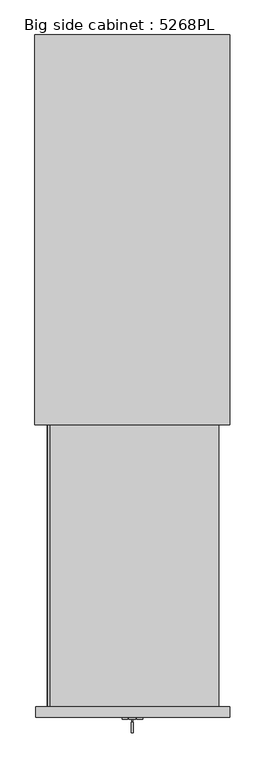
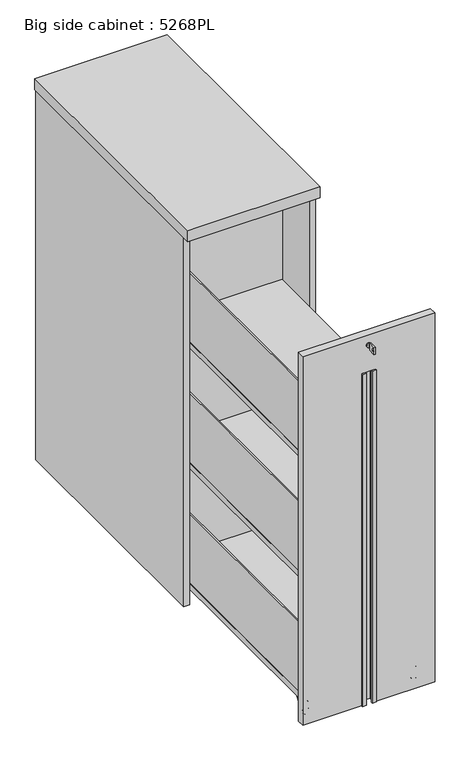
"""IFC4 building model written with IfcOpenShell, lengths in millimetres: furniture geometry, Big side cabinet : 5268PL."""

from ifc_helpers import new_model, si_unit, point, frame, frame_2d, origin, origin_with_axes, place, context, project, spatial, polyline, circle_curve, ellipse_curve, trimmed, segment, composite_curve, outline, extrude, source, transform, mapped, element, save
from ifc_brep_helpers import plane_surface, cylinder_surface, revolved_surface, advanced_brep


def big_side_cabinet_5268pl_2fee174d(model_context):
    return source(origin(), model_context, "Body", "SolidModel", [
        extrude(outline(polyline([(1.5783188, 20.1617145), (1.5783188, 10.1617145), (-8.4216812, 10.1617145), (-8.4216812, 20.1617145), (1.5783188, 20.1617145)])), origin_with_axes(), (0.0, 0.0, 1.0), 10.0),
        extrude(outline(polyline([(180.5000002, 798.0), (198.5, 798.0), (198.5, 22.9999769), (180.5000002, 22.9999769), (180.5000002, 798.0)])), frame((0.0, 0.0, 5.0), z_axis=(0.0, 0.0, 1.0), x_axis=(1.0, 0.0, 0.0)), (0.0, 0.0, 1.0), 1180.0),
        extrude(outline(polyline([(-180.5000002, 778.4999997), (-180.5000002, 790.9999997), (180.5000002, 790.9999997), (180.5000002, 778.4999997), (-180.5000002, 778.4999997)])), frame((0.0, 0.0, 5.0), z_axis=(0.0, 0.0, 1.0), x_axis=(1.0, 0.0, 0.0)), (0.0, 0.0, 1.0), 1180.0),
        extrude(outline(polyline([(-180.5000002, 798.0), (-180.5000002, 22.9999769), (-198.5, 22.9999769), (-198.5, 798.0), (-180.5000002, 798.0)])), frame((0.0, 0.0, 5.0), z_axis=(0.0, 0.0, 1.0), x_axis=(1.0, 0.0, 0.0)), (0.0, 0.0, 1.0), 1180.0),
        extrude(outline(polyline([(180.5000002, 70.0000151), (-180.5000002, 70.0000151), (-180.5000002, 738.5000021), (180.5000002, 738.5000021), (180.5000002, 70.0000151)])), frame((0.0, 0.0, 20.0583505), z_axis=(0.0, 0.0, 1.0), x_axis=(1.0, 0.0, 0.0)), (0.0, 0.0, 1.0), 17.9999982),
        extrude(outline(polyline([(200.0, 0.0), (-200.0, 0.0), (-200.0, 800.0), (200.0, 800.0), (200.0, 0.0)])), frame((0.0, 0.0, 1185.0), z_axis=(0.0, 0.0, 1.0), x_axis=(1.0, 0.0, 0.0)), (0.0, 0.0, 1.0), 35.0),
        extrude(outline(composite_curve([segment(trimmed(circle_curve(frame_2d((-160.5000002, 706.0000021)), 20.0), [point((-180.5000002, 706.0000021))], [point((-140.5000002, 706.0000021))], False, "CARTESIAN"), True, "CONTINUOUS"), segment(trimmed(circle_curve(frame_2d((-160.5000002, 706.0000021)), 20.0), [point((-140.5000002, 706.0000021))], [point((-180.5000002, 706.0000021))], False, "CARTESIAN"), True, "CONTINUOUS")], self_intersect=False)), origin_with_axes(), (0.0, 0.0, 1.0), 19.0539492),
        extrude(outline(composite_curve([segment(trimmed(circle_curve(frame_2d((-160.5000002, 98.9999918)), 20.0), [point((-180.5000002, 98.9999918))], [point((-140.5000002, 98.9999918))], False, "CARTESIAN"), True, "CONTINUOUS"), segment(trimmed(circle_curve(frame_2d((-160.5000002, 98.9999918)), 20.0), [point((-140.5000002, 98.9999918))], [point((-180.5000002, 98.9999918))], False, "CARTESIAN"), True, "CONTINUOUS")], self_intersect=False)), origin_with_axes(), (0.0, 0.0, 1.0), 19.0539492),
        extrude(outline(composite_curve([segment(trimmed(circle_curve(frame_2d((160.5000002, 706.0000021)), 20.0), [point((140.5000002, 706.0000021))], [point((180.5000002, 706.0000021))], False, "CARTESIAN"), True, "CONTINUOUS"), segment(trimmed(circle_curve(frame_2d((160.5000002, 706.0000021)), 20.0), [point((180.5000002, 706.0000021))], [point((140.5000002, 706.0000021))], False, "CARTESIAN"), True, "CONTINUOUS")], self_intersect=False)), origin_with_axes(), (0.0, 0.0, 1.0), 19.0539492),
        extrude(outline(composite_curve([segment(trimmed(circle_curve(frame_2d((160.5000002, 98.9999918)), 20.0), [point((140.5000002, 98.9999918))], [point((180.5000002, 98.9999918))], False, "CARTESIAN"), True, "CONTINUOUS"), segment(trimmed(circle_curve(frame_2d((160.5000002, 98.9999918)), 20.0), [point((180.5000002, 98.9999918))], [point((140.5000002, 98.9999918))], False, "CARTESIAN"), True, "CONTINUOUS")], self_intersect=False)), origin_with_axes(), (0.0, 0.0, 1.0), 19.0539492),
        advanced_brep(
        [(155.997354, -548.0000393, 10.5), (158.25, -548.0000393, 12.752646), (158.25, -548.0000393, 29.247354), (155.997354, -548.0000393, 31.5), (155.997354, -548.0000393, 3.0456405), (155.997354, -548.0000393, 38.9543595), (159.0429945, -548.0000393, 0.0), (159.0429945, -548.0000393, 42.0), (162.5, -548.0000393, 0.0), (162.5, -548.0000393, 42.0), (162.5, -548.0000393, 16.75), (162.5, -548.0000393, 25.25), (158.25, -548.0000393, 16.75), (158.25, -548.0000393, 25.25)],
        [
            (0, 1),
            (1, 2, circle_curve(frame((158.25, -548.0000393, 21.0), z_axis=(1.0, 0.0, 0.0), x_axis=(0.0, 0.0, 1.0)), 8.247354)),
            (2, 3),
            (3, 0, circle_curve(frame((155.997354, -548.0000393, 21.0), z_axis=(-1.0, 0.0, 0.0), x_axis=(0.0, 0.0, 1.0)), 10.5)),
            (2, 1, circle_curve(frame((158.25, -548.0000393, 21.0), z_axis=(1.0, 0.0, 0.0), x_axis=(0.0, 0.0, 1.0)), 8.247354)),
            (0, 3, circle_curve(frame((155.997354, -548.0000393, 21.0), z_axis=(-1.0, 0.0, 0.0), x_axis=(0.0, 0.0, 1.0)), 10.5)),
            (4, 0),
            (3, 5),
            (5, 4, circle_curve(frame((155.997354, -548.0000393, 21.0), z_axis=(-1.0, 0.0, 0.0), x_axis=(0.0, 0.0, 1.0)), 17.9543595)),
            (4, 5, circle_curve(frame((155.997354, -548.0000393, 21.0), z_axis=(-1.0, 0.0, 0.0), x_axis=(0.0, 0.0, 1.0)), 17.9543595)),
            (6, 4, circle_curve(frame((159.0429945, -548.0000393, 3.0456405), z_axis=(0.0, 1.0, 0.0), x_axis=(-1.0, 0.0, 0.0)), 3.0456405)),
            (5, 7, circle_curve(frame((159.0429945, -548.0000393, 38.9543595), z_axis=(0.0, 1.0, 0.0), x_axis=(-1.0, 0.0, 0.0)), 3.0456405)),
            (7, 6, circle_curve(frame((159.0429945, -548.0000393, 21.0), z_axis=(-1.0, 0.0, 0.0), x_axis=(0.0, 0.0, 1.0)), 21.0)),
            (6, 7, circle_curve(frame((159.0429945, -548.0000393, 21.0), z_axis=(-1.0, 0.0, 0.0), x_axis=(0.0, 0.0, 1.0)), 21.0)),
            (8, 6),
            (7, 9),
            (9, 8, circle_curve(frame((162.5, -548.0000393, 21.0), z_axis=(-1.0, 0.0, 0.0), x_axis=(0.0, 0.0, 1.0)), 21.0)),
            (8, 9, circle_curve(frame((162.5, -548.0000393, 21.0), z_axis=(-1.0, 0.0, 0.0), x_axis=(0.0, 0.0, 1.0)), 21.0)),
            (10, 8),
            (9, 11),
            (11, 10, circle_curve(frame((162.5, -548.0000393, 21.0), z_axis=(-1.0, 0.0, 0.0), x_axis=(0.0, 0.0, 1.0)), 4.25)),
            (10, 11, circle_curve(frame((162.5, -548.0000393, 21.0), z_axis=(-1.0, 0.0, 0.0), x_axis=(0.0, 0.0, 1.0)), 4.25)),
            (12, 10),
            (11, 13),
            (13, 12, circle_curve(frame((158.25, -548.0000393, 21.0), z_axis=(-1.0, 0.0, 0.0), x_axis=(0.0, 0.0, 1.0)), 4.25)),
            (12, 13, circle_curve(frame((158.25, -548.0000393, 21.0), z_axis=(-1.0, 0.0, 0.0), x_axis=(0.0, 0.0, 1.0)), 4.25)),
            (1, 12),
            (13, 2),
        ],
        [
            revolved_surface(polyline([(158.25, -548.0000393, 29.247354), (155.997354, -548.0000393, 31.5)]), (135.5019942, -548.0000393, 21.0), (1.0, 0.0, 0.0)),
            plane_surface(frame((155.997354, -548.0000393, 21.0), z_axis=(-1.0, 0.0, 0.0), x_axis=(0.0, 0.0, 1.0))),
            revolved_surface(trimmed(ellipse_curve(frame((159.0429945, -548.0000393, 38.9543595), z_axis=(0.0, 1.0, 0.0), x_axis=(-1.0, 0.0, 0.0)), 3.0456405, 3.0456405), [point((155.997354, -548.0000393, 38.9543595))], [point((159.0429945, -548.0000393, 42.0))], True, "CARTESIAN"), (135.5019942, -548.0000393, 21.0), (1.0, 0.0, 0.0)),
            cylinder_surface(frame((135.5019942, -548.0000393, 21.0), z_axis=(1.0, 0.0, 0.0), x_axis=(0.0, 0.0, 1.0)), 21.0),
            plane_surface(frame((162.5, -548.0000393, 21.0), z_axis=(1.0, 0.0, 0.0), x_axis=(0.0, 0.0, 1.0))),
            revolved_surface(polyline([(162.5, -548.0000393, 25.25), (158.25, -548.0000393, 25.25)]), (135.5019942, -548.0000393, 21.0), (1.0, 0.0, 0.0)),
            plane_surface(frame((158.25, -548.0000393, 21.0), z_axis=(-1.0, 0.0, 0.0), x_axis=(0.0, 0.0, 1.0))),
        ],
        [
            (0, [[1, 2, 3, 4]]),
            (0, [[-3, 5, -1, 6]]),
            (1, [[7, -4, 8, 9]]),
            (1, [[-8, -6, -7, 10]]),
            (2, [[11, -9, 12, 13]]),
            (2, [[-12, -10, -11, 14]]),
            (3, [[15, -13, 16, 17]]),
            (3, [[-16, -14, -15, 18]]),
            (4, [[19, -17, 20, 21]]),
            (4, [[-20, -18, -19, 22]]),
            (5, [[23, -21, 24, 25]]),
            (5, [[-24, -22, -23, 26]]),
            (6, [[27, -25, 28, -2]]),
            (6, [[-28, -26, -27, -5]]),
        ],
    ),
        advanced_brep(
        [(174.351441, -548.0000393, 25.0), (174.351441, -548.0000393, 21.0), (174.351441, -548.0000393, 17.0), (169.8769483, -548.0000393, 17.0), (169.8769483, -548.0000393, 25.0)],
        [
            (0, 1),
            (1, 2),
            (2, 0, circle_curve(frame((174.351441, -548.0000393, 21.0), z_axis=(1.0, 0.0, 0.0), x_axis=(0.0, 0.0, -1.0)), 4.0)),
            (0, 2, circle_curve(frame((174.351441, -548.0000393, 21.0), z_axis=(1.0, 0.0, 0.0), x_axis=(0.0, 0.0, -1.0)), 4.0)),
            (2, 3),
            (3, 4, circle_curve(frame((169.8769483, -548.0000393, 21.0), z_axis=(1.0, 0.0, 0.0), x_axis=(0.0, 0.0, -1.0)), 4.0)),
            (4, 0),
            (4, 3, circle_curve(frame((169.8769483, -548.0000393, 21.0), z_axis=(1.0, 0.0, 0.0), x_axis=(0.0, 0.0, -1.0)), 4.0)),
        ],
        [
            plane_surface(frame((174.351441, -548.0000393, 21.0), z_axis=(1.0, 0.0, 0.0), x_axis=(0.0, 0.0, -1.0))),
            cylinder_surface(frame((142.5, -548.0000393, 21.0), z_axis=(-1.0, 0.0, 0.0), x_axis=(0.0, 0.0, -1.0)), 4.0),
            plane_surface(frame((169.8769483, -572.0000393, 46.0), z_axis=(-1.0, 0.0, 0.0), x_axis=(0.0, 1.0, 0.0))),
        ],
        [
            (0, [[1, 2, 3]]),
            (0, [[-1, 4, -2]]),
            (1, [[5, 6, 7, -3]]),
            (1, [[-7, 8, -5, -4]]),
            (2, [[-8, -6]]),
        ],
    ),
        advanced_brep(
        [(150.5708052, -548.0000393, 25.0), (155.0, -548.0000393, 25.0), (155.0, -548.0000393, 17.0), (150.5708052, -548.0000393, 17.0), (150.5708052, -548.0000393, 21.0)],
        [
            (0, 1),
            (1, 2, circle_curve(frame((155.0, -548.0000393, 21.0), z_axis=(-1.0, 0.0, 0.0), x_axis=(0.0, 0.0, -1.0)), 4.0)),
            (2, 3),
            (3, 0, circle_curve(frame((150.5708052, -548.0000393, 21.0), z_axis=(1.0, 0.0, 0.0), x_axis=(0.0, 0.0, -1.0)), 4.0)),
            (2, 1, circle_curve(frame((155.0, -548.0000393, 21.0), z_axis=(-1.0, 0.0, 0.0), x_axis=(0.0, 0.0, -1.0)), 4.0)),
            (0, 3, circle_curve(frame((150.5708052, -548.0000393, 21.0), z_axis=(1.0, 0.0, 0.0), x_axis=(0.0, 0.0, -1.0)), 4.0)),
            (3, 4),
            (4, 0),
        ],
        [
            cylinder_surface(frame((142.5, -548.0000393, 21.0), z_axis=(-1.0, 0.0, 0.0), x_axis=(0.0, 0.0, -1.0)), 4.0),
            plane_surface(frame((150.5708052, -548.0000393, 21.0), z_axis=(-1.0, 0.0, 0.0), x_axis=(0.0, 0.0, -1.0))),
            plane_surface(frame((155.0, -572.0000393, 0.0), z_axis=(1.0, 0.0, 0.0), x_axis=(0.0, 1.0, 0.0))),
        ],
        [
            (0, [[1, 2, 3, 4]]),
            (0, [[-3, 5, -1, 6]]),
            (1, [[7, 8, -4]]),
            (1, [[-8, -7, -6]]),
            (2, [[-5, -2]]),
        ],
    ),
        advanced_brep(
        [(166.75, -548.0000393, 12.752646), (169.002646, -548.0000393, 10.5), (169.002646, -548.0000393, 31.5), (166.75, -548.0000393, 29.247354), (169.002646, -548.0000393, 3.0456405), (169.002646, -548.0000393, 38.9543595), (165.9570055, -548.0000393, 0.0), (165.9570055, -548.0000393, 42.0), (162.5, -548.0000393, 0.0), (162.5, -548.0000393, 42.0), (162.5, -548.0000393, 21.0), (166.75, -548.0000393, 21.0)],
        [
            (0, 1),
            (1, 2, circle_curve(frame((169.002646, -548.0000393, 21.0), z_axis=(1.0, 0.0, 0.0), x_axis=(0.0, 0.0, 1.0)), 10.5)),
            (2, 3),
            (3, 0, circle_curve(frame((166.75, -548.0000393, 21.0), z_axis=(-1.0, 0.0, 0.0), x_axis=(0.0, 0.0, 1.0)), 8.247354)),
            (2, 1, circle_curve(frame((169.002646, -548.0000393, 21.0), z_axis=(1.0, 0.0, 0.0), x_axis=(0.0, 0.0, 1.0)), 10.5)),
            (0, 3, circle_curve(frame((166.75, -548.0000393, 21.0), z_axis=(-1.0, 0.0, 0.0), x_axis=(0.0, 0.0, 1.0)), 8.247354)),
            (1, 4),
            (4, 5, circle_curve(frame((169.002646, -548.0000393, 21.0), z_axis=(1.0, 0.0, 0.0), x_axis=(0.0, 0.0, 1.0)), 17.9543595)),
            (5, 2),
            (5, 4, circle_curve(frame((169.002646, -548.0000393, 21.0), z_axis=(1.0, 0.0, 0.0), x_axis=(0.0, 0.0, 1.0)), 17.9543595)),
            (4, 6, circle_curve(frame((165.9570055, -548.0000393, 3.0456405), z_axis=(0.0, 1.0, 0.0), x_axis=(1.0, 0.0, 0.0)), 3.0456405)),
            (6, 7, circle_curve(frame((165.9570055, -548.0000393, 21.0), z_axis=(1.0, 0.0, 0.0), x_axis=(0.0, 0.0, 1.0)), 21.0)),
            (7, 5, circle_curve(frame((165.9570055, -548.0000393, 38.9543595), z_axis=(0.0, 1.0, 0.0), x_axis=(1.0, 0.0, 0.0)), 3.0456405)),
            (7, 6, circle_curve(frame((165.9570055, -548.0000393, 21.0), z_axis=(1.0, 0.0, 0.0), x_axis=(0.0, 0.0, 1.0)), 21.0)),
            (6, 8),
            (8, 9, circle_curve(frame((162.5, -548.0000393, 21.0), z_axis=(1.0, 0.0, 0.0), x_axis=(0.0, 0.0, 1.0)), 21.0)),
            (9, 7),
            (9, 8, circle_curve(frame((162.5, -548.0000393, 21.0), z_axis=(1.0, 0.0, 0.0), x_axis=(0.0, 0.0, 1.0)), 21.0)),
            (8, 10),
            (10, 9),
            (11, 0),
            (3, 11),
        ],
        [
            revolved_surface(polyline([(169.002646, -548.0000393, 31.5), (166.75, -548.0000393, 29.247354)]), (189.4980058, -548.0000393, 21.0), (1.0, 0.0, 0.0)),
            plane_surface(frame((169.002646, -548.0000393, 21.0), z_axis=(1.0, 0.0, 0.0), x_axis=(0.0, 0.0, 1.0))),
            revolved_surface(trimmed(ellipse_curve(frame((165.9570055, -548.0000393, 38.9543595), z_axis=(0.0, 1.0, 0.0), x_axis=(1.0, 0.0, 0.0)), 3.0456405, 3.0456405), [point((165.9570055, -548.0000393, 42.0))], [point((169.002646, -548.0000393, 38.9543595))], True, "CARTESIAN"), (189.4980058, -548.0000393, 21.0), (1.0, 0.0, 0.0)),
            cylinder_surface(frame((189.4980058, -548.0000393, 21.0), z_axis=(1.0, 0.0, 0.0), x_axis=(0.0, 0.0, 1.0)), 21.0),
            plane_surface(frame((162.5, -548.0000393, 21.0), z_axis=(-1.0, 0.0, 0.0), x_axis=(0.0, 0.0, 1.0))),
            plane_surface(frame((166.75, -548.0000393, 21.0), z_axis=(1.0, 0.0, 0.0), x_axis=(0.0, 0.0, 1.0))),
        ],
        [
            (0, [[1, 2, 3, 4]]),
            (0, [[-3, 5, -1, 6]]),
            (1, [[7, 8, 9, -2]]),
            (1, [[-9, 10, -7, -5]]),
            (2, [[11, 12, 13, -8]]),
            (2, [[-13, 14, -11, -10]]),
            (3, [[15, 16, 17, -12]]),
            (3, [[-17, 18, -15, -14]]),
            (4, [[19, 20, -16]]),
            (4, [[-20, -19, -18]]),
            (5, [[21, -4, 22]]),
            (5, [[-22, -6, -21]]),
        ],
    ),
        advanced_brep(
        [(152.5, -524.0000393, 48.0), (152.5, -524.0000393, 42.0), (152.5, -540.0000393, 21.0), (152.5, -556.0000393, 21.0), (152.5, -572.0000393, 42.0), (152.5, -572.0000393, 48.0), (172.5, -524.0000393, 48.0), (172.5, -572.0000393, 48.0), (172.5, -572.0000393, 42.0), (172.5, -556.0000393, 21.0), (172.5, -540.0000393, 21.0), (172.5, -524.0000393, 42.0), (169.8769483, -556.0000393, 21.0), (169.8769483, -540.0000393, 21.0), (155.0, -540.0000393, 21.0), (155.0, -556.0000393, 21.0), (155.0, -572.0000393, 42.0), (155.0, -572.0000393, 46.0), (169.8769483, -572.0000393, 46.0), (169.8769483, -572.0000393, 42.0), (169.8769483, -524.0000393, 42.0), (169.8769483, -524.0000393, 46.0), (155.0, -524.0000393, 46.0), (155.0, -524.0000393, 42.0)],
        [
            (0, 1),
            (1, 2),
            (2, 3, circle_curve(frame((152.5, -548.0000393, 21.0), z_axis=(-1.0, 0.0, 0.0), x_axis=(0.0, -1.0, 0.0)), 8.0)),
            (3, 4),
            (4, 5),
            (5, 0),
            (6, 7),
            (7, 8),
            (8, 9),
            (9, 10, circle_curve(frame((172.5, -548.0000393, 21.0), z_axis=(1.0, 0.0, 0.0), x_axis=(0.0, -1.0, 0.0)), 8.0)),
            (10, 11),
            (11, 6),
            (5, 7),
            (6, 0),
            (9, 12),
            (12, 13, circle_curve(frame((169.8769483, -548.0000393, 21.0), z_axis=(1.0, 0.0, 0.0), x_axis=(0.0, -1.0, 0.0)), 8.0)),
            (13, 10),
            (2, 14),
            (14, 15, circle_curve(frame((155.0, -548.0000393, 21.0), z_axis=(-1.0, 0.0, 0.0), x_axis=(0.0, -1.0, 0.0)), 8.0)),
            (15, 3),
            (4, 16),
            (16, 17),
            (17, 18),
            (18, 19),
            (19, 8),
            (11, 20),
            (20, 21),
            (21, 22),
            (22, 23),
            (23, 1),
            (17, 22),
            (21, 18),
            (16, 15),
            (14, 23),
            (20, 13),
            (12, 19),
        ],
        [
            plane_surface(frame((152.5, -572.0000393, 48.0), z_axis=(-1.0, 0.0, 0.0), x_axis=(0.0, -1.0, 0.0))),
            plane_surface(frame((172.5, -572.0000393, 48.0), z_axis=(1.0, 0.0, 0.0), x_axis=(0.0, 1.0, 0.0))),
            plane_surface(frame((152.5, -524.0000393, 48.0), z_axis=(0.0, 0.0, 1.0), x_axis=(1.0, 0.0, 0.0))),
            cylinder_surface(frame((172.5, -548.0000393, 21.0), z_axis=(-1.0, 0.0, 0.0), x_axis=(0.0, -1.0, 0.0)), 8.0),
            plane_surface(frame((152.5, -572.0000393, 48.0), z_axis=(0.0, -1.0, 0.0), x_axis=(1.0, 0.0, 0.0))),
            plane_surface(frame((152.5, -524.0000393, 42.0), z_axis=(0.0, 1.0, 0.0), x_axis=(1.0, 0.0, 0.0))),
            plane_surface(frame((155.0, -572.0000393, 46.0), z_axis=(0.0, 0.0, -1.0), x_axis=(0.0, 1.0, 0.0))),
            plane_surface(frame((155.0, -572.0000393, 0.0), z_axis=(1.0, 0.0, 0.0), x_axis=(0.0, 1.0, 0.0))),
            plane_surface(frame((169.8769483, -572.0000393, 46.0), z_axis=(-1.0, 0.0, 0.0), x_axis=(0.0, 1.0, 0.0))),
            plane_surface(frame((152.5, -572.0000393, 42.0), z_axis=(0.0, -0.7954317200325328, -0.6060432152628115), x_axis=(1.0, 0.0, 0.0))),
            plane_surface(frame((152.5, -540.0000393, 21.0), z_axis=(0.0, 0.7954317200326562, -0.6060432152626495), x_axis=(1.0, 0.0, 0.0))),
        ],
        [
            (0, [[1, 2, 3, 4, 5, 6]]),
            (1, [[7, 8, 9, 10, 11, 12]]),
            (2, [[13, -7, 14, -6]]),
            (3, [[15, 16, 17, -10]]),
            (3, [[18, 19, 20, -3]]),
            (4, [[21, 22, 23, 24, 25, -8, -13, -5]]),
            (5, [[-14, -12, 26, 27, 28, 29, 30, -1]]),
            (6, [[-23, 31, -28, 32]]),
            (7, [[-22, 33, -19, 34, -29, -31]]),
            (8, [[-27, 35, -16, 36, -24, -32]]),
            (9, [[-20, -33, -21, -4]]),
            (9, [[-25, -36, -15, -9]]),
            (10, [[-30, -34, -18, -2]]),
            (10, [[-17, -35, -26, -11]]),
        ],
    ),
        extrude(outline(polyline([(-632.0000046, 1139.014113), (-632.0000046, 1161.0), (-610.0000046, 1161.0), (-610.0000046, 1139.014113), (-632.0000046, 1139.014113)]), holes=[composite_curve([segment(trimmed(circle_curve(frame_2d((-625.7500046, 1150.0070565)), 3.2230706), [point((-625.7500046, 1153.2301271))], [point((-625.7500046, 1146.7839859))], True, "CARTESIAN"), True, "CONTINUOUS"), segment(trimmed(circle_curve(frame_2d((-625.7500046, 1150.0070565)), 3.2230706), [point((-625.7500046, 1146.7839859))], [point((-625.7500046, 1153.2301271))], True, "CARTESIAN"), True, "CONTINUOUS")], self_intersect=False)]), frame((-2.0, 0.0, 0.0), z_axis=(1.0, 0.0, 0.0), x_axis=(0.0, 1.0, 0.0)), (0.0, 0.0, 1.0), 4.0416064),
        extrude(outline(polyline([(1.0416064, -610.0000046), (-1.0, -610.0000046), (-1.0, -604.0000046), (1.0416064, -604.0000046), (1.0416064, -610.0000046)])), frame((0.0, 0.0, 1146.014113), z_axis=(0.0, 0.0, 1.0), x_axis=(1.0, 0.0, 0.0)), (0.0, 0.0, 1.0), 7.985887),
        extrude(outline(composite_curve([segment(trimmed(circle_curve(frame_2d((1150.0, 0.0)), 7.0), [point((1150.0, -7.0))], [point((1150.0, 7.0))], False, "CARTESIAN"), True, "CONTINUOUS"), segment(trimmed(circle_curve(frame_2d((1150.0, 0.0)), 7.0), [point((1150.0, 7.0))], [point((1150.0, -7.0))], False, "CARTESIAN"), True, "CONTINUOUS")], self_intersect=False)), frame((0.0, -604.0000046, 0.0), z_axis=(0.0, 1.0, 0.0), x_axis=(0.0, 0.0, 1.0)), (0.0, 0.0, 1.0), 4.0),
        extrude(outline(polyline([(1182.0, 200.0000015), (1182.0, -198.5000015), (5.0, -198.5000015), (5.0, -17.7500067), (1065.0, -17.7500067), (1065.0, 17.7500067), (5.0, 17.7500067), (5.0, 200.0000015), (1182.0, 200.0000015)])), frame((0.0, -600.0000046, 0.0), z_axis=(0.0, 1.0, 0.0), x_axis=(0.0, 0.0, 1.0)), (0.0, 0.0, 1.0), 21.9999653),
        extrude(outline(polyline([(-21.2499929, -604.2058707), (-21.2499929, -600.0000046), (-17.7500067, -600.0000046), (-17.7500067, -578.0000393), (17.7500067, -578.0000393), (17.7500067, -600.0000046), (21.2499929, -600.0000046), (21.2499929, -604.2058707), (9.2499986, -604.2058707), (9.2499986, -598.4780496), (15.9519183, -595.3528931), (15.9519183, -580.3528931), (-15.9519183, -580.3528931), (-15.9519183, -595.3528931), (-9.2499986, -598.4780496), (-9.2499986, -604.2058707), (-21.2499929, -604.2058707)])), frame((0.0, 0.0, 5.0), z_axis=(0.0, 0.0, 1.0), x_axis=(1.0, 0.0, 0.0)), (0.0, 0.0, 1.0), 1060.0),
        extrude(outline(polyline([(-169.8004833, -578.0000046), (-173.7499883, -578.0000046), (-173.7499883, 160.5000143), (-169.8004833, 160.5000143), (-169.8004833, -578.0000046)])), frame((0.0, 0.0, 836.0), z_axis=(0.0, 0.0, 1.0), x_axis=(1.0, 0.0, 0.0)), (0.0, 0.0, 1.0), 220.0),
        extrude(outline(polyline([(-169.8004833, -578.0000046), (-173.7499883, -578.0000046), (-173.7499883, 160.5000143), (-169.8004833, 160.5000143), (-169.8004833, -578.0000046)])), frame((0.0, 0.0, 451.0), z_axis=(0.0, 0.0, 1.0), x_axis=(1.0, 0.0, 0.0)), (0.0, 0.0, 1.0), 220.0),
        extrude(outline(polyline([(-169.8004833, -578.0000046), (-173.7499883, -578.0000046), (-173.7499883, 160.5000143), (-169.8004833, 160.5000143), (-169.8004833, -578.0000046)])), frame((0.0, 0.0, 66.0), z_axis=(0.0, 0.0, 1.0), x_axis=(1.0, 0.0, 0.0)), (0.0, 0.0, 1.0), 220.0),
        advanced_brep(
        [(-155.997354, -548.0000393, 10.5), (-155.997354, -548.0000393, 31.5), (-158.25, -548.0000393, 29.247354), (-158.25, -548.0000393, 12.752646), (-155.997354, -548.0000393, 3.0456405), (-155.997354, -548.0000393, 38.9543595), (-159.0429945, -548.0000393, 0.0), (-159.0429945, -548.0000393, 42.0), (-162.5, -548.0000393, 0.0), (-162.5, -548.0000393, 42.0), (-162.5, -548.0000393, 16.75), (-162.5, -548.0000393, 25.25), (-158.25, -548.0000393, 16.75), (-158.25, -548.0000393, 25.25)],
        [
            (0, 1, circle_curve(frame((-155.997354, -548.0000393, 21.0), z_axis=(1.0, 0.0, 0.0), x_axis=(0.0, 0.0, 1.0)), 10.5)),
            (1, 2),
            (2, 3, circle_curve(frame((-158.25, -548.0000393, 21.0), z_axis=(-1.0, 0.0, 0.0), x_axis=(0.0, 0.0, 1.0)), 8.247354)),
            (3, 0),
            (1, 0, circle_curve(frame((-155.997354, -548.0000393, 21.0), z_axis=(1.0, 0.0, 0.0), x_axis=(0.0, 0.0, 1.0)), 10.5)),
            (3, 2, circle_curve(frame((-158.25, -548.0000393, 21.0), z_axis=(-1.0, 0.0, 0.0), x_axis=(0.0, 0.0, 1.0)), 8.247354)),
            (4, 5, circle_curve(frame((-155.997354, -548.0000393, 21.0), z_axis=(1.0, 0.0, 0.0), x_axis=(0.0, 0.0, 1.0)), 17.9543595)),
            (5, 1),
            (0, 4),
            (5, 4, circle_curve(frame((-155.997354, -548.0000393, 21.0), z_axis=(1.0, 0.0, 0.0), x_axis=(0.0, 0.0, 1.0)), 17.9543595)),
            (6, 7, circle_curve(frame((-159.0429945, -548.0000393, 21.0), z_axis=(1.0, 0.0, 0.0), x_axis=(0.0, 0.0, 1.0)), 21.0)),
            (7, 5, circle_curve(frame((-159.0429945, -548.0000393, 38.9543595), z_axis=(0.0, 1.0, 0.0), x_axis=(1.0, 0.0, 0.0)), 3.0456405)),
            (4, 6, circle_curve(frame((-159.0429945, -548.0000393, 3.0456405), z_axis=(0.0, 1.0, 0.0), x_axis=(1.0, 0.0, 0.0)), 3.0456405)),
            (7, 6, circle_curve(frame((-159.0429945, -548.0000393, 21.0), z_axis=(1.0, 0.0, 0.0), x_axis=(0.0, 0.0, 1.0)), 21.0)),
            (8, 9, circle_curve(frame((-162.5, -548.0000393, 21.0), z_axis=(1.0, 0.0, 0.0), x_axis=(0.0, 0.0, 1.0)), 21.0)),
            (9, 7),
            (6, 8),
            (9, 8, circle_curve(frame((-162.5, -548.0000393, 21.0), z_axis=(1.0, 0.0, 0.0), x_axis=(0.0, 0.0, 1.0)), 21.0)),
            (10, 11, circle_curve(frame((-162.5, -548.0000393, 21.0), z_axis=(1.0, 0.0, 0.0), x_axis=(0.0, 0.0, 1.0)), 4.25)),
            (11, 9),
            (8, 10),
            (11, 10, circle_curve(frame((-162.5, -548.0000393, 21.0), z_axis=(1.0, 0.0, 0.0), x_axis=(0.0, 0.0, 1.0)), 4.25)),
            (12, 13, circle_curve(frame((-158.25, -548.0000393, 21.0), z_axis=(1.0, 0.0, 0.0), x_axis=(0.0, 0.0, 1.0)), 4.25)),
            (13, 11),
            (10, 12),
            (13, 12, circle_curve(frame((-158.25, -548.0000393, 21.0), z_axis=(1.0, 0.0, 0.0), x_axis=(0.0, 0.0, 1.0)), 4.25)),
            (2, 13),
            (12, 3),
        ],
        [
            revolved_surface(polyline([(-158.25, -548.0000393, 29.247354), (-155.997354, -548.0000393, 31.5)]), (-135.5019942, -548.0000393, 21.0), (-1.0, 0.0, 0.0)),
            plane_surface(frame((-155.997354, -548.0000393, 21.0), z_axis=(1.0, 0.0, 0.0), x_axis=(0.0, 0.0, 1.0))),
            revolved_surface(trimmed(ellipse_curve(frame((-159.0429945, -548.0000393, 38.9543595), z_axis=(0.0, -1.0, 0.0), x_axis=(1.0, 0.0, 0.0)), 3.0456405, 3.0456405), [point((-155.997354, -548.0000393, 38.9543595))], [point((-159.0429945, -548.0000393, 42.0))], True, "CARTESIAN"), (-135.5019942, -548.0000393, 21.0), (-1.0, 0.0, 0.0)),
            cylinder_surface(frame((-135.5019942, -548.0000393, 21.0), z_axis=(-1.0, 0.0, 0.0), x_axis=(0.0, 0.0, 1.0)), 21.0),
            plane_surface(frame((-162.5, -548.0000393, 21.0), z_axis=(-1.0, 0.0, 0.0), x_axis=(0.0, 0.0, 1.0))),
            revolved_surface(polyline([(-162.5, -548.0000393, 25.25), (-158.25, -548.0000393, 25.25)]), (-135.5019942, -548.0000393, 21.0), (-1.0, 0.0, 0.0)),
            plane_surface(frame((-158.25, -548.0000393, 21.0), z_axis=(1.0, 0.0, 0.0), x_axis=(0.0, 0.0, 1.0))),
        ],
        [
            (0, [[1, 2, 3, 4]]),
            (0, [[5, -4, 6, -2]]),
            (1, [[7, 8, -1, 9]]),
            (1, [[10, -9, -5, -8]]),
            (2, [[11, 12, -7, 13]]),
            (2, [[14, -13, -10, -12]]),
            (3, [[15, 16, -11, 17]]),
            (3, [[18, -17, -14, -16]]),
            (4, [[19, 20, -15, 21]]),
            (4, [[22, -21, -18, -20]]),
            (5, [[23, 24, -19, 25]]),
            (5, [[26, -25, -22, -24]]),
            (6, [[-3, 27, -23, 28]]),
            (6, [[-6, -28, -26, -27]]),
        ],
    ),
        advanced_brep(
        [(-174.351441, -548.0000393, 25.0), (-174.351441, -548.0000393, 17.0), (-174.351441, -548.0000393, 21.0), (-169.8769483, -548.0000393, 25.0), (-169.8769483, -548.0000393, 17.0)],
        [
            (0, 1, circle_curve(frame((-174.351441, -548.0000393, 21.0), z_axis=(-1.0, 0.0, 0.0), x_axis=(0.0, 0.0, -1.0)), 4.0)),
            (1, 2),
            (2, 0),
            (1, 0, circle_curve(frame((-174.351441, -548.0000393, 21.0), z_axis=(-1.0, 0.0, 0.0), x_axis=(0.0, 0.0, -1.0)), 4.0)),
            (0, 3),
            (3, 4, circle_curve(frame((-169.8769483, -548.0000393, 21.0), z_axis=(-1.0, 0.0, 0.0), x_axis=(0.0, 0.0, -1.0)), 4.0)),
            (4, 1),
            (4, 3, circle_curve(frame((-169.8769483, -548.0000393, 21.0), z_axis=(-1.0, 0.0, 0.0), x_axis=(0.0, 0.0, -1.0)), 4.0)),
        ],
        [
            plane_surface(frame((-174.351441, -548.0000393, 21.0), z_axis=(-1.0, 0.0, 0.0), x_axis=(0.0, 0.0, -1.0))),
            cylinder_surface(frame((-142.5, -548.0000393, 21.0), z_axis=(1.0, 0.0, 0.0), x_axis=(0.0, 0.0, -1.0)), 4.0),
            plane_surface(frame((-169.8769483, -572.0000393, 46.0), z_axis=(1.0, 0.0, 0.0), x_axis=(0.0, 1.0, 0.0))),
        ],
        [
            (0, [[1, 2, 3]]),
            (0, [[-2, 4, -3]]),
            (1, [[-1, 5, 6, 7]]),
            (1, [[-4, -7, 8, -5]]),
            (2, [[-6, -8]]),
        ],
    ),
        advanced_brep(
        [(-150.5708052, -548.0000393, 25.0), (-150.5708052, -548.0000393, 17.0), (-155.0, -548.0000393, 17.0), (-155.0, -548.0000393, 25.0), (-150.5708052, -548.0000393, 21.0)],
        [
            (0, 1, circle_curve(frame((-150.5708052, -548.0000393, 21.0), z_axis=(-1.0, 0.0, 0.0), x_axis=(0.0, 0.0, -1.0)), 4.0)),
            (1, 2),
            (2, 3, circle_curve(frame((-155.0, -548.0000393, 21.0), z_axis=(1.0, 0.0, 0.0), x_axis=(0.0, 0.0, -1.0)), 4.0)),
            (3, 0),
            (1, 0, circle_curve(frame((-150.5708052, -548.0000393, 21.0), z_axis=(-1.0, 0.0, 0.0), x_axis=(0.0, 0.0, -1.0)), 4.0)),
            (3, 2, circle_curve(frame((-155.0, -548.0000393, 21.0), z_axis=(1.0, 0.0, 0.0), x_axis=(0.0, 0.0, -1.0)), 4.0)),
            (0, 4),
            (4, 1),
        ],
        [
            cylinder_surface(frame((-142.5, -548.0000393, 21.0), z_axis=(1.0, 0.0, 0.0), x_axis=(0.0, 0.0, -1.0)), 4.0),
            plane_surface(frame((-150.5708052, -548.0000393, 21.0), z_axis=(1.0, 0.0, 0.0), x_axis=(0.0, 0.0, -1.0))),
            plane_surface(frame((-155.0, -572.0000393, 0.0), z_axis=(-1.0, 0.0, 0.0), x_axis=(0.0, 1.0, 0.0))),
        ],
        [
            (0, [[1, 2, 3, 4]]),
            (0, [[5, -4, 6, -2]]),
            (1, [[-1, 7, 8]]),
            (1, [[-5, -8, -7]]),
            (2, [[-3, -6]]),
        ],
    ),
        advanced_brep(
        [(-166.75, -548.0000393, 12.752646), (-166.75, -548.0000393, 29.247354), (-169.002646, -548.0000393, 31.5), (-169.002646, -548.0000393, 10.5), (-169.002646, -548.0000393, 38.9543595), (-169.002646, -548.0000393, 3.0456405), (-165.9570055, -548.0000393, 42.0), (-165.9570055, -548.0000393, 0.0), (-162.5, -548.0000393, 42.0), (-162.5, -548.0000393, 0.0), (-162.5, -548.0000393, 21.0), (-166.75, -548.0000393, 21.0)],
        [
            (0, 1, circle_curve(frame((-166.75, -548.0000393, 21.0), z_axis=(1.0, 0.0, 0.0), x_axis=(0.0, 0.0, 1.0)), 8.247354)),
            (1, 2),
            (2, 3, circle_curve(frame((-169.002646, -548.0000393, 21.0), z_axis=(-1.0, 0.0, 0.0), x_axis=(0.0, 0.0, 1.0)), 10.5)),
            (3, 0),
            (1, 0, circle_curve(frame((-166.75, -548.0000393, 21.0), z_axis=(1.0, 0.0, 0.0), x_axis=(0.0, 0.0, 1.0)), 8.247354)),
            (3, 2, circle_curve(frame((-169.002646, -548.0000393, 21.0), z_axis=(-1.0, 0.0, 0.0), x_axis=(0.0, 0.0, 1.0)), 10.5)),
            (2, 4),
            (4, 5, circle_curve(frame((-169.002646, -548.0000393, 21.0), z_axis=(-1.0, 0.0, 0.0), x_axis=(0.0, 0.0, 1.0)), 17.9543595)),
            (5, 3),
            (5, 4, circle_curve(frame((-169.002646, -548.0000393, 21.0), z_axis=(-1.0, 0.0, 0.0), x_axis=(0.0, 0.0, 1.0)), 17.9543595)),
            (4, 6, circle_curve(frame((-165.9570055, -548.0000393, 38.9543595), z_axis=(0.0, 1.0, 0.0), x_axis=(-1.0, 0.0, 0.0)), 3.0456405)),
            (6, 7, circle_curve(frame((-165.9570055, -548.0000393, 21.0), z_axis=(-1.0, 0.0, 0.0), x_axis=(0.0, 0.0, 1.0)), 21.0)),
            (7, 5, circle_curve(frame((-165.9570055, -548.0000393, 3.0456405), z_axis=(0.0, 1.0, 0.0), x_axis=(-1.0, 0.0, 0.0)), 3.0456405)),
            (7, 6, circle_curve(frame((-165.9570055, -548.0000393, 21.0), z_axis=(-1.0, 0.0, 0.0), x_axis=(0.0, 0.0, 1.0)), 21.0)),
            (6, 8),
            (8, 9, circle_curve(frame((-162.5, -548.0000393, 21.0), z_axis=(-1.0, 0.0, 0.0), x_axis=(0.0, 0.0, 1.0)), 21.0)),
            (9, 7),
            (9, 8, circle_curve(frame((-162.5, -548.0000393, 21.0), z_axis=(-1.0, 0.0, 0.0), x_axis=(0.0, 0.0, 1.0)), 21.0)),
            (8, 10),
            (10, 9),
            (11, 1),
            (0, 11),
        ],
        [
            revolved_surface(polyline([(-169.002646, -548.0000393, 31.5), (-166.75, -548.0000393, 29.247354)]), (-189.4980058, -548.0000393, 21.0), (-1.0, 0.0, 0.0)),
            plane_surface(frame((-169.002646, -548.0000393, 21.0), z_axis=(-1.0, 0.0, 0.0), x_axis=(0.0, 0.0, 1.0))),
            revolved_surface(trimmed(ellipse_curve(frame((-165.9570055, -548.0000393, 38.9543595), z_axis=(0.0, -1.0, 0.0), x_axis=(-1.0, 0.0, 0.0)), 3.0456405, 3.0456405), [point((-165.9570055, -548.0000393, 42.0))], [point((-169.002646, -548.0000393, 38.9543595))], True, "CARTESIAN"), (-189.4980058, -548.0000393, 21.0), (-1.0, 0.0, 0.0)),
            cylinder_surface(frame((-189.4980058, -548.0000393, 21.0), z_axis=(-1.0, 0.0, 0.0), x_axis=(0.0, 0.0, 1.0)), 21.0),
            plane_surface(frame((-162.5, -548.0000393, 21.0), z_axis=(1.0, 0.0, 0.0), x_axis=(0.0, 0.0, 1.0))),
            plane_surface(frame((-166.75, -548.0000393, 21.0), z_axis=(-1.0, 0.0, 0.0), x_axis=(0.0, 0.0, 1.0))),
        ],
        [
            (0, [[1, 2, 3, 4]]),
            (0, [[5, -4, 6, -2]]),
            (1, [[-3, 7, 8, 9]]),
            (1, [[-6, -9, 10, -7]]),
            (2, [[-8, 11, 12, 13]]),
            (2, [[-10, -13, 14, -11]]),
            (3, [[-12, 15, 16, 17]]),
            (3, [[-14, -17, 18, -15]]),
            (4, [[-16, 19, 20]]),
            (4, [[-18, -20, -19]]),
            (5, [[21, -1, 22]]),
            (5, [[-22, -5, -21]]),
        ],
    ),
        advanced_brep(
        [(-152.5, -524.0000393, 48.0), (-152.5, -572.0000393, 48.0), (-152.5, -572.0000393, 42.0), (-152.5, -556.0000393, 21.0), (-152.5, -540.0000393, 21.0), (-152.5, -524.0000393, 42.0), (-172.5, -524.0000393, 48.0), (-172.5, -524.0000393, 42.0), (-172.5, -540.0000393, 21.0), (-172.5, -556.0000393, 21.0), (-172.5, -572.0000393, 42.0), (-172.5, -572.0000393, 48.0), (-155.0, -556.0000393, 21.0), (-155.0, -540.0000393, 21.0), (-169.8769483, -540.0000393, 21.0), (-169.8769483, -556.0000393, 21.0), (-169.8769483, -572.0000393, 42.0), (-169.8769483, -572.0000393, 46.0), (-155.0, -572.0000393, 46.0), (-155.0, -572.0000393, 42.0), (-155.0, -524.0000393, 42.0), (-155.0, -524.0000393, 46.0), (-169.8769483, -524.0000393, 46.0), (-169.8769483, -524.0000393, 42.0)],
        [
            (0, 1),
            (1, 2),
            (2, 3),
            (3, 4, circle_curve(frame((-152.5, -548.0000393, 21.0), z_axis=(1.0, 0.0, 0.0), x_axis=(0.0, -1.0, 0.0)), 8.0)),
            (4, 5),
            (5, 0),
            (6, 7),
            (7, 8),
            (8, 9, circle_curve(frame((-172.5, -548.0000393, 21.0), z_axis=(-1.0, 0.0, 0.0), x_axis=(0.0, -1.0, 0.0)), 8.0)),
            (9, 10),
            (10, 11),
            (11, 6),
            (0, 6),
            (11, 1),
            (3, 12),
            (12, 13, circle_curve(frame((-155.0, -548.0000393, 21.0), z_axis=(1.0, 0.0, 0.0), x_axis=(0.0, -1.0, 0.0)), 8.0)),
            (13, 4),
            (8, 14),
            (14, 15, circle_curve(frame((-169.8769483, -548.0000393, 21.0), z_axis=(-1.0, 0.0, 0.0), x_axis=(0.0, -1.0, 0.0)), 8.0)),
            (15, 9),
            (10, 16),
            (16, 17),
            (17, 18),
            (18, 19),
            (19, 2),
            (5, 20),
            (20, 21),
            (21, 22),
            (22, 23),
            (23, 7),
            (17, 22),
            (21, 18),
            (20, 13),
            (12, 19),
            (16, 15),
            (14, 23),
        ],
        [
            plane_surface(frame((-152.5, -572.0000393, 48.0), z_axis=(1.0, 0.0, 0.0), x_axis=(0.0, -1.0, 0.0))),
            plane_surface(frame((-172.5, -572.0000393, 48.0), z_axis=(-1.0, 0.0, 0.0), x_axis=(0.0, 1.0, 0.0))),
            plane_surface(frame((-152.5, -524.0000393, 48.0), z_axis=(0.0, 0.0, 1.0), x_axis=(-1.0, 0.0, 0.0))),
            cylinder_surface(frame((-172.5, -548.0000393, 21.0), z_axis=(1.0, 0.0, 0.0), x_axis=(0.0, -1.0, 0.0)), 8.0),
            plane_surface(frame((-152.5, -572.0000393, 48.0), z_axis=(0.0, -1.0, 0.0), x_axis=(-1.0, 0.0, 0.0))),
            plane_surface(frame((-152.5, -524.0000393, 42.0), z_axis=(0.0, 1.0, 0.0), x_axis=(-1.0, 0.0, 0.0))),
            plane_surface(frame((-155.0, -572.0000393, 46.0), z_axis=(0.0, 0.0, -1.0), x_axis=(0.0, 1.0, 0.0))),
            plane_surface(frame((-155.0, -572.0000393, 0.0), z_axis=(-1.0, 0.0, 0.0), x_axis=(0.0, 1.0, 0.0))),
            plane_surface(frame((-169.8769483, -572.0000393, 46.0), z_axis=(1.0, 0.0, 0.0), x_axis=(0.0, 1.0, 0.0))),
            plane_surface(frame((-152.5, -572.0000393, 42.0), z_axis=(0.0, -0.7954317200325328, -0.6060432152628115), x_axis=(-1.0, 0.0, 0.0))),
            plane_surface(frame((-152.5, -540.0000393, 21.0), z_axis=(0.0, 0.7954317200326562, -0.6060432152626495), x_axis=(-1.0, 0.0, 0.0))),
        ],
        [
            (0, [[1, 2, 3, 4, 5, 6]]),
            (1, [[7, 8, 9, 10, 11, 12]]),
            (2, [[-1, 13, -12, 14]]),
            (3, [[-4, 15, 16, 17]]),
            (3, [[-9, 18, 19, 20]]),
            (4, [[-2, -14, -11, 21, 22, 23, 24, 25]]),
            (5, [[-6, 26, 27, 28, 29, 30, -7, -13]]),
            (6, [[31, -28, 32, -23]]),
            (7, [[-32, -27, 33, -16, 34, -24]]),
            (8, [[-31, -22, 35, -19, 36, -29]]),
            (9, [[-3, -25, -34, -15]]),
            (9, [[-10, -20, -35, -21]]),
            (10, [[-5, -17, -33, -26]]),
            (10, [[-8, -30, -36, -18]]),
        ],
    ),
        extrude(outline(polyline([(178.9999867, 160.5000143), (-177.0096218, 160.5000143), (-177.0096218, 178.5000057), (178.9999867, 178.5000057), (178.9999867, 160.5000143)])), frame((0.0, 0.0, 48.0), z_axis=(0.0, 0.0, 1.0), x_axis=(1.0, 0.0, 0.0)), (0.0, 0.0, 1.0), 1017.0),
        extrude(outline(polyline([(-175.0096218, 160.5000143), (176.9999867, 160.5000143), (176.9999867, -578.0000046), (-175.0096218, -578.0000046), (-175.0096218, 160.5000143)])), frame((0.0, 0.0, 818.0), z_axis=(0.0, 0.0, 1.0), x_axis=(1.0, 0.0, 0.0)), (0.0, 0.0, 1.0), 18.0),
        extrude(outline(polyline([(-175.0096218, 160.5000143), (176.9999867, 160.5000143), (176.9999867, -578.0000046), (-175.0096218, -578.0000046), (-175.0096218, 160.5000143)])), frame((0.0, 0.0, 433.0), z_axis=(0.0, 0.0, 1.0), x_axis=(1.0, 0.0, 0.0)), (0.0, 0.0, 1.0), 18.0),
        extrude(outline(polyline([(-175.0096218, 160.5000143), (176.9999867, 160.5000143), (176.9999867, -578.0000046), (-175.0096218, -578.0000046), (-175.0096218, 160.5000143)])), frame((0.0, 0.0, 48.0), z_axis=(0.0, 0.0, 1.0), x_axis=(1.0, 0.0, 0.0)), (0.0, 0.0, 1.0), 18.0),
    ])


if __name__ == "__main__":
    model = new_model("IFC4")
    model_context = context("Model", 3, world=origin())
    ifc_project = project(units=[si_unit("LENGTHUNIT", "METRE", prefix="MILLI")], contexts=[model_context])
    site = spatial("IfcSite", under=ifc_project)
    building = spatial("IfcBuilding", under=site)
    placement = place(None, origin())
    big_side_cabinet_5268pl_shape = big_side_cabinet_5268pl_2fee174d(model_context)
    element("IfcFurniture", 1, ObjectType="Big side cabinet : 5268PL", at=placement, inside=building, context=model_context, shape_type="MappedRepresentation", body=[
        mapped(big_side_cabinet_5268pl_shape, transform((0.0, 0.0, 0.0), x_axis=(1.0, 0.0, 0.0), y_axis=(0.0, 1.0, 0.0), z_axis=(0.0, 0.0, 1.0))),
    ])
    save(model, "model.ifc")
